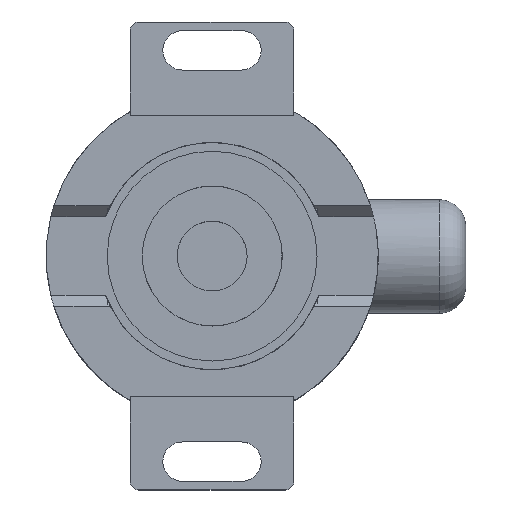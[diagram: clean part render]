
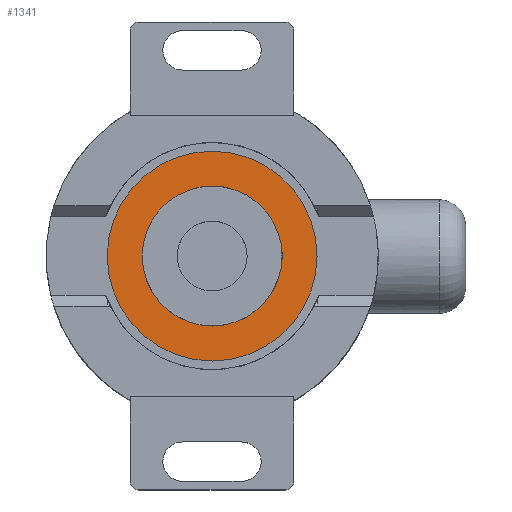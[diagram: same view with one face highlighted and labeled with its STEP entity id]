
A CAD part, top view. The second image highlights one B-rep face of the part: STEP entity #1341.
In plain terms, the highlighted planar face has unit normal (0, 0, 1).
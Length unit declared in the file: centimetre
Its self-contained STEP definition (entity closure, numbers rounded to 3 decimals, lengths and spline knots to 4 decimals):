
#414=VERTEX_POINT('',#6026);
#416=VERTEX_POINT('',#6033);
#558=EDGE_CURVE('',#414,#414,#2148,.T.);
#560=EDGE_CURVE('',#416,#416,#2150,.T.);
#787=ORIENTED_EDGE('',*,*,#558,.T.);
#788=ORIENTED_EDGE('',*,*,#560,.F.);
#1161=EDGE_LOOP('',(#787));
#1162=EDGE_LOOP('',(#788));
#1258=FACE_BOUND('',#1161,.T.);
#1259=FACE_BOUND('',#1162,.T.);
#1341=ADVANCED_FACE('',(#1258,#1259),#4386,.T.);
#2148=CIRCLE('',#3954,0.8);
#2150=CIRCLE('',#3959,1.2);
#3954=AXIS2_PLACEMENT_3D('',#6025,#4858,#4859);
#3959=AXIS2_PLACEMENT_3D('',#6032,#4867,#4868);
#3961=AXIS2_PLACEMENT_3D('',#6036,#4871,$);
#4386=PLANE('',#3961);
#4858=DIRECTION('',(0.,0.,-1.));
#4859=DIRECTION('',(0.8,0.,0.));
#4867=DIRECTION('',(0.,0.,-1.));
#4868=DIRECTION('',(1.2,0.,0.));
#4871=DIRECTION('',(0.,0.,1.));
#6025=CARTESIAN_POINT('',(0.,0.,3.8));
#6026=CARTESIAN_POINT('',(0.8,0.,3.8));
#6032=CARTESIAN_POINT('',(0.,0.,3.8));
#6033=CARTESIAN_POINT('',(1.2,0.,3.8));
#6036=CARTESIAN_POINT('',(0.,0.,3.8));
